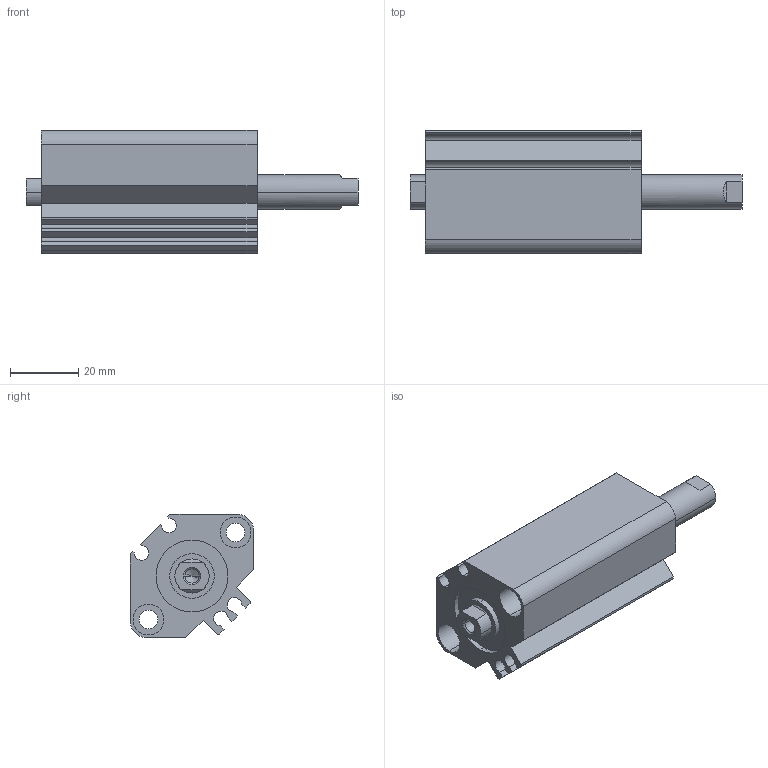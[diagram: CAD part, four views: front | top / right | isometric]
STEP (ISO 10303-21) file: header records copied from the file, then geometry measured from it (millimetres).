
FILE_DESCRIPTION (( 'STEP AP203' ), '1' );
FILE_NAME ('CCMB20-25F-P.STEP', '2020-08-05T11:06:39', ( '' ), ( '' ), 'SwSTEP 2.0', 'SolidWorks 2019', '' );
FILE_SCHEMA (( 'CONFIG_CONTROL_DESIGN' ));
Length unit declared in the file: millimetre
Products named in the file (1): CCMB20-25F-P
Bounding box: 97 x 36 x 36 mm (x, y, z)
Volume: 57254.4 mm3; surface area: 23699 mm2
Topology: 2 solids, 2 shells, 114 faces, 276 edges, 178 vertices
Faces by surface type: cylinder 52, plane 50, cone 12
Entity records: 3419 total; most frequent: DIRECTION 614, CARTESIAN_POINT 577, ORIENTED_EDGE 544, EDGE_CURVE 272, AXIS2_PLACEMENT_3D 231, VERTEX_POINT 178, LINE 152, VECTOR 152
